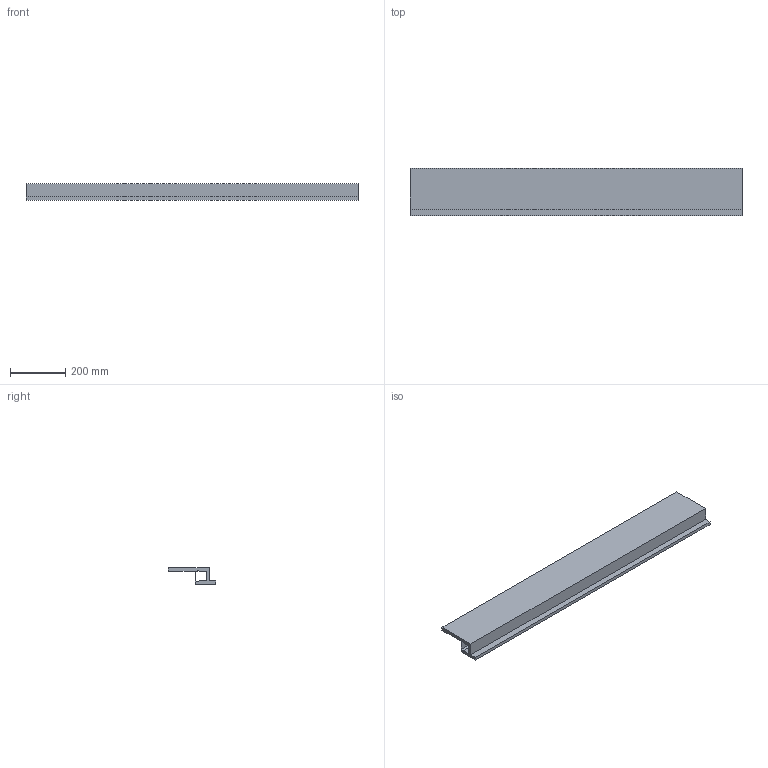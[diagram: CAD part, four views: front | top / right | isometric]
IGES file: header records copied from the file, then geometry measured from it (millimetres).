
Start section: SolidWorks IGES file using analytic representation for surfaces
Global section: file name: C:\Users\Stagiaire\Desktop\Rendu 3D\Micro BLADE Cadre\779_Micro_BLADE_CADRE.IGS; native system: SolidWorks 2014; preprocessor: SolidWorks 2014; author: Stagiaire; date: 140915.112307; units: millimetre
Bounding box: 1200 x 170 x 60 mm (x, y, z)
Surface area: 803674.2 mm2 (no closed solid volume)
Topology: 0 solids, 0 shells, 27 faces, 138 edges, 138 vertices
Faces by surface type: bspline 27
